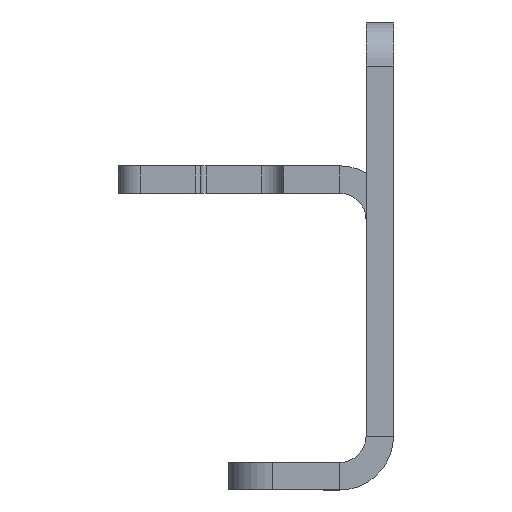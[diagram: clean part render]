
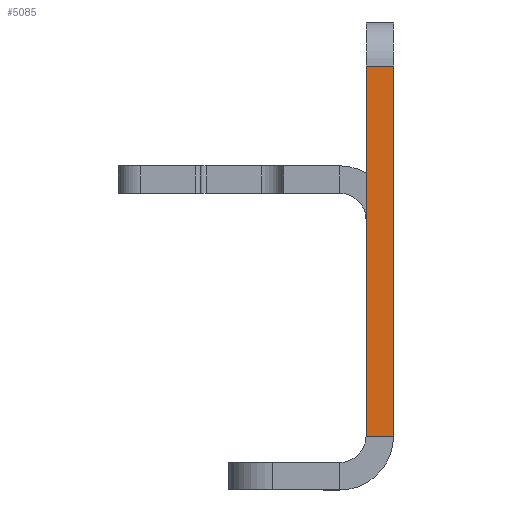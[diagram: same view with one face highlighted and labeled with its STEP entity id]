
A CAD part, left-side view. The second image highlights one B-rep face of the part: STEP entity #5085.
In plain terms, the highlighted planar face has unit normal (-1, 0, 0).
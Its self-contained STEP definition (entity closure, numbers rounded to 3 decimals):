
#65 = VECTOR ( 'NONE', #2798, 1000. ) ;
#67 = VECTOR ( 'NONE', #2801, 1000. ) ;
#69 = VECTOR ( 'NONE', #2804, 1000. ) ;
#2798 = DIRECTION ( 'NONE',  ( 0., 1., 0. ) ) ;
#2799 = CARTESIAN_POINT ( 'NONE',  ( -536.25, -2.5, 49.1 ) ) ;
#2800 = LINE ( 'NONE', #2799, #65 ) ;
#2801 = DIRECTION ( 'NONE',  ( 0., 1., 0. ) ) ;
#2802 = CARTESIAN_POINT ( 'NONE',  ( -536.25, -2.5, 15.47 ) ) ;
#2803 = LINE ( 'NONE', #2802, #67 ) ;
#2804 = DIRECTION ( 'NONE',  ( 0., 0., 1. ) ) ;
#2805 = CARTESIAN_POINT ( 'NONE',  ( -536.25, -2.5, 4. ) ) ;
#2806 = LINE ( 'NONE', #2805, #69 ) ;
#3749 = EDGE_CURVE ( 'NONE', #10627, #10640, #2806, .T. ) ;
#3750 = EDGE_CURVE ( 'NONE', #10627, #7480, #2803, .T. ) ;
#3751 = EDGE_CURVE ( 'NONE', #10640, #7481, #2800, .T. ) ;
#5085 = ADVANCED_FACE ( 'NONE', ( #13708 ), #13771, .T. ) ;
#5232 = EDGE_CURVE ( 'NONE', #7480, #7481, #8800, .T. ) ;
#7480 = VERTEX_POINT ( 'NONE', #8184 ) ;
#7481 = VERTEX_POINT ( 'NONE', #8183 ) ;
#8006 = CARTESIAN_POINT ( 'NONE',  ( -536.25, -2.5, 49.1 ) ) ;
#8015 = CARTESIAN_POINT ( 'NONE',  ( -536.25, -2.5, 15.47 ) ) ;
#8183 = CARTESIAN_POINT ( 'NONE',  ( -536.25, 0., 49.1 ) ) ;
#8184 = CARTESIAN_POINT ( 'NONE',  ( -536.25, 0., 15.47 ) ) ;
#8798 = DIRECTION ( 'NONE',  ( 0., 0., 1. ) ) ;
#8799 = CARTESIAN_POINT ( 'NONE',  ( -536.25, 0., 4. ) ) ;
#8800 = LINE ( 'NONE', #8799, #12844 ) ;
#9826 = EDGE_LOOP ( 'NONE', ( #10246, #10250, #10248, #10252 ) ) ;
#10246 = ORIENTED_EDGE ( 'NONE', *, *, #3750, .F. ) ;
#10248 = ORIENTED_EDGE ( 'NONE', *, *, #3751, .T. ) ;
#10250 = ORIENTED_EDGE ( 'NONE', *, *, #3749, .T. ) ;
#10252 = ORIENTED_EDGE ( 'NONE', *, *, #5232, .F. ) ;
#10627 = VERTEX_POINT ( 'NONE', #8015 ) ;
#10640 = VERTEX_POINT ( 'NONE', #8006 ) ;
#12844 = VECTOR ( 'NONE', #8798, 1000. ) ;
#13662 = AXIS2_PLACEMENT_3D ( 'NONE', #13769, #13768, #13766 ) ;
#13708 = FACE_OUTER_BOUND ( 'NONE', #9826, .T. ) ;
#13766 = DIRECTION ( 'NONE',  ( 0., 0., 1. ) ) ;
#13768 = DIRECTION ( 'NONE',  ( -1., 0., 0. ) ) ;
#13769 = CARTESIAN_POINT ( 'NONE',  ( -536.25, -2.5, 4. ) ) ;
#13771 = PLANE ( 'NONE',  #13662 ) ;
